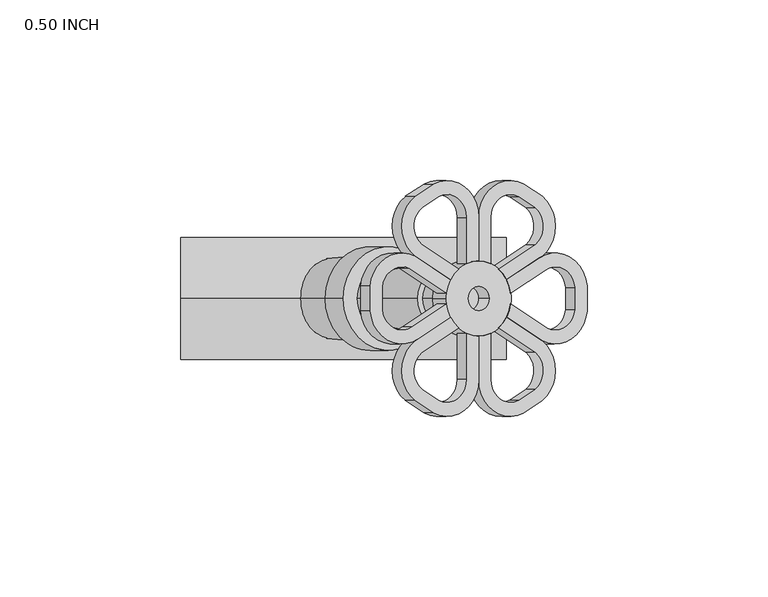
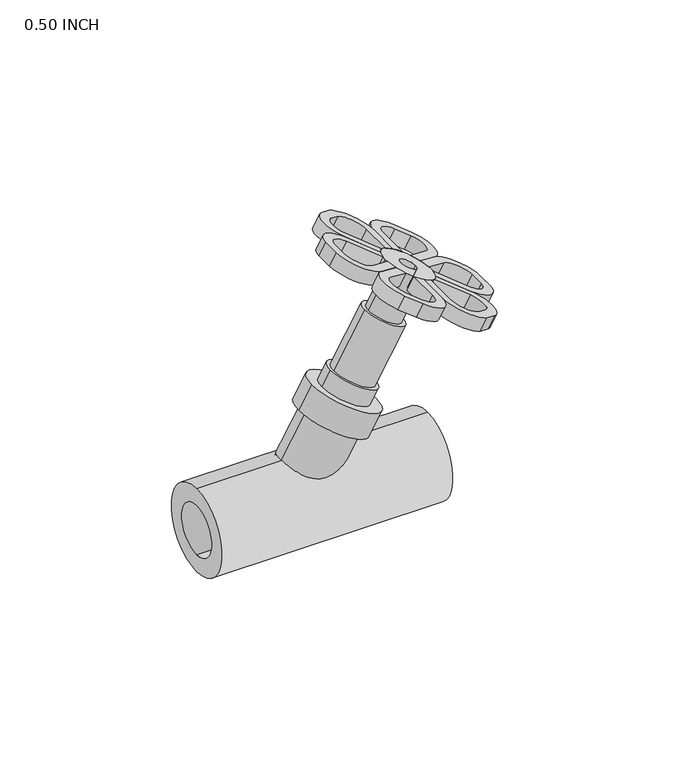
"""IFC4 building model written with IfcOpenShell, lengths in millimetres: valve geometry, Aquatherm - Inclined Check Valve without drain : 0.50 INCH."""

from ifc_helpers import new_model, si_unit, point, frame, frame_2d, origin, origin_2d, place, context, project, spatial, polyline, circle_curve, trimmed, segment, composite_curve, outline, extrude, source, transform, mapped, element, save
from ifc_brep_helpers import plane_surface, cylinder_surface, revolved_surface, advanced_brep


def valve_0_50_inch_45df056f(model_context):
    return source(origin(), model_context, "Body", "SolidModel", [
        advanced_brep(
        [(111.9367275, 10.5951948, 66.2771909), (125.069744, 2.812243, 58.6948403), (125.0898625, -4.0695455, 58.6832248), (112.7241595, -12.3087434, 65.8225668), (102.9347614, -5.7824779, 71.4744784), (104.0280816, -2.111949, 70.8432497), (114.2140611, -8.902602, 64.9623717), (121.7917492, -3.6900946, 60.5873914), (121.8077835, 2.4387005, 60.578134), (113.5865059, 7.295638, 65.3246909), (104.0154846, 0.9149571, 70.8505226), (102.9071894, 4.5755028, 71.4903971), (114.6037275, 10.5951948, 70.8965704), (105.5741894, 4.5755028, 76.1097766), (106.6824846, 0.9149571, 75.4699021), (116.2535059, 7.295638, 69.9440704), (124.4532944, 2.4362397, 65.2099203), (124.473563, -3.691799, 65.1982182), (116.8810611, -8.902602, 69.5817512), (106.6950816, -2.111949, 75.4626292), (105.6017614, -5.7824779, 76.0938579), (115.3911595, -12.3087434, 70.4419463), (127.7420487, -4.0678412, 63.3111571), (127.7582331, 2.8147039, 63.301813)],
        [
            (0, 1, circle_curve(frame((116.3286929, 1.8112639, 63.7414884), z_axis=(-0.49999999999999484, 0.0, -0.8660254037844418), x_axis=(0.4330127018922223, -0.866025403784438, -0.24999999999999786)), 10.1428098)),
            (1, 2, circle_curve(frame((95.1023937, -0.6194603, 75.996498), z_axis=(-0.49999999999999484, 0.0, -0.8660254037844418), x_axis=(0.4330127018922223, -0.866025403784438, -0.24999999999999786)), 34.798)),
            (2, 3, circle_curve(frame((116.3343972, -3.0622214, 63.7381951), z_axis=(-0.49999999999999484, 0.0, -0.8660254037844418), x_axis=(0.4330127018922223, -0.866025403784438, -0.24999999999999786)), 10.1428098)),
            (3, 4),
            (4, 5, circle_curve(frame((95.1023937, -0.6194603, 75.996498), z_axis=(0.49999999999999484, 0.0, 0.8660254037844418), x_axis=(0.41622412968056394, 0.8769321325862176, -0.2403071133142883)), 10.414)),
            (5, 6),
            (6, 7, circle_curve(frame((116.3343972, -3.0622214, 63.7381951), z_axis=(0.49999999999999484, 0.0, 0.8660254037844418), x_axis=(0.4330127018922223, -0.866025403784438, -0.24999999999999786)), 6.3328098)),
            (7, 8, circle_curve(frame((95.1023937, -0.6194603, 75.996498), z_axis=(0.49999999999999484, 0.0, 0.8660254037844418), x_axis=(0.4330127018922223, -0.866025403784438, -0.24999999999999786)), 30.988)),
            (8, 9, circle_curve(frame((116.3286929, 1.8112639, 63.7414884), z_axis=(0.49999999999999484, 0.0, 0.8660254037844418), x_axis=(0.4330127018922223, -0.866025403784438, -0.24999999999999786)), 6.3328098)),
            (9, 10),
            (10, 11, circle_curve(frame((95.0966894, -0.6314972, 75.9997914), z_axis=(0.49999999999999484, 0.0, 0.8660254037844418), x_axis=(0.4330127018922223, -0.866025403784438, -0.24999999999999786)), 10.414)),
            (11, 0),
            (12, 13),
            (13, 14, circle_curve(frame((97.7636894, -0.6314972, 80.6191709), z_axis=(-0.49999999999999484, 0.0, -0.8660254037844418), x_axis=(0.4330127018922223, -0.866025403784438, -0.24999999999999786)), 10.414)),
            (14, 15),
            (15, 16, circle_curve(frame((118.9956929, 1.8112639, 68.3608679), z_axis=(-0.49999999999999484, 0.0, -0.8660254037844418), x_axis=(0.4330127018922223, -0.866025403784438, -0.24999999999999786)), 6.3328098)),
            (16, 17, circle_curve(frame((97.7693937, -0.6194603, 80.6158775), z_axis=(-0.49999999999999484, 0.0, -0.8660254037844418), x_axis=(0.4330127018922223, -0.866025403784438, -0.24999999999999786)), 30.988)),
            (17, 18, circle_curve(frame((119.0013972, -3.0622214, 68.3575746), z_axis=(-0.49999999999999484, 0.0, -0.8660254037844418), x_axis=(0.4330127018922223, -0.866025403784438, -0.24999999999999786)), 6.3328098)),
            (18, 19),
            (19, 20, circle_curve(frame((97.7693937, -0.6194603, 80.6158775), z_axis=(-0.49999999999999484, 0.0, -0.8660254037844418), x_axis=(0.41622412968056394, 0.8769321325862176, -0.2403071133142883)), 10.414)),
            (20, 21),
            (21, 22, circle_curve(frame((119.0013972, -3.0622214, 68.3575746), z_axis=(0.49999999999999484, 0.0, 0.8660254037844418), x_axis=(0.4330127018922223, -0.866025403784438, -0.24999999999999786)), 10.1428098)),
            (22, 23, circle_curve(frame((97.7693937, -0.6194603, 80.6158775), z_axis=(0.49999999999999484, 0.0, 0.8660254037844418), x_axis=(0.4330127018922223, -0.866025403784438, -0.24999999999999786)), 34.798)),
            (23, 12, circle_curve(frame((118.9956929, 1.8112639, 68.3608679), z_axis=(0.49999999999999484, 0.0, 0.8660254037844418), x_axis=(0.4330127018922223, -0.866025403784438, -0.24999999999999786)), 10.1428098)),
            (11, 13),
            (12, 0),
            (10, 14),
            (9, 15),
            (8, 16),
            (7, 17),
            (6, 18),
            (5, 19),
            (4, 20),
            (3, 21),
            (2, 22),
            (1, 23),
        ],
        [
            plane_surface(frame((120.7206584, -6.9726671, 61.205786), z_axis=(-0.4999999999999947, 0.0, -0.8660254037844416), x_axis=(-0.7500000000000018, -0.5000000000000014, 0.43301270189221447))),
            plane_surface(frame((123.3876584, -6.9726671, 65.8251655), z_axis=(0.4999999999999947, 0.0, 0.8660254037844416), x_axis=(0.7500000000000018, 0.5000000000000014, -0.43301270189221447))),
            plane_surface(frame((102.9071894, 4.5755028, 71.4903971), z_axis=(-0.43301270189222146, 0.8660254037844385, 0.24999999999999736), x_axis=(0.49999999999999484, 0.0, 0.8660254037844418))),
            revolved_surface(polyline([(102.27308368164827, -9.650285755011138, 78.01567090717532), (99.6060836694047, -9.650285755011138, 73.39629138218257)]), (97.7636894, -0.6314972, 80.6191709), (0.49999999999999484, 0.0, 0.8660254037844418)),
            plane_surface(frame((113.5865059, 7.295638, 65.3246909), z_axis=(0.43301270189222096, -0.8660254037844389, -0.24999999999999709), x_axis=(0.49999999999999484, 0.0, 0.8660254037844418))),
            revolved_surface(polyline([(121.73788002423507, -3.6731102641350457, 66.7776655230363), (119.07087998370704, -3.6731102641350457, 62.15828594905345)]), (118.9956929, 1.8112639, 68.3608679), (0.49999999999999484, 0.0, 0.8660254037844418)),
            revolved_surface(polyline([(111.1875913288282, -27.455855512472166, 72.8688775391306), (108.52059130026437, -27.455855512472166, 68.2494979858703)]), (97.7693937, -0.6194603, 80.6158775), (0.49999999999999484, 0.0, 0.8660254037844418)),
            revolved_surface(polyline([(121.74358428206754, -8.546595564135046, 66.77437215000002), (119.07658426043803, -8.546595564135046, 62.15499260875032)]), (119.0013972, -3.0622214, 68.3575746), (0.49999999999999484, 0.0, 0.8660254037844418)),
            plane_surface(frame((104.0280816, -2.111949, 70.8432497), z_axis=(0.4330127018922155, 0.8660254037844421, -0.2499999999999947), x_axis=(0.49999999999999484, 0.0, 0.8660254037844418))),
            revolved_surface(polyline([(102.10395179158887, 8.51291092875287, 78.11331923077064), (99.43695178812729, 8.51291092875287, 73.49393972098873)]), (97.7693937, -0.6194603, 80.6158775), (0.49999999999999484, 0.0, 0.8660254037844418)),
            plane_surface(frame((112.7241595, -12.3087434, 65.8225668), z_axis=(-0.43301270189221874, -0.8660254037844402, 0.24999999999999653), x_axis=(0.49999999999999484, 0.0, 0.8660254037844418))),
            cylinder_surface(frame((119.0013972, -3.0622214, 68.3575746), z_axis=(-0.49999999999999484, 0.0, -0.8660254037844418), x_axis=(0.4330127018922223, -0.866025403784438, -0.24999999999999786)), 10.1428098),
            cylinder_surface(frame((97.7693937, -0.6194603, 80.6158775), z_axis=(-0.49999999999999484, 0.0, -0.8660254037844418), x_axis=(0.4330127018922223, -0.866025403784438, -0.24999999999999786)), 34.798),
            cylinder_surface(frame((118.9956929, 1.8112639, 68.3608679), z_axis=(-0.49999999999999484, 0.0, -0.8660254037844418), x_axis=(0.4330127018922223, -0.866025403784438, -0.24999999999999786)), 10.1428098),
        ],
        [
            (0, [[1, 2, 3, 4, 5, 6, 7, 8, 9, 10, 11, 12]]),
            (1, [[13, 14, 15, 16, 17, 18, 19, 20, 21, 22, 23, 24]]),
            (2, [[-12, 25, -13, 26]]),
            (3, [[-11, 27, -14, -25]]),
            (4, [[-10, 28, -15, -27]]),
            (5, [[-9, 29, -16, -28]]),
            (6, [[-8, 30, -17, -29]]),
            (7, [[-7, 31, -18, -30]]),
            (8, [[-6, 32, -19, -31]]),
            (9, [[-5, 33, -20, -32]]),
            (10, [[-4, 34, -21, -33]]),
            (11, [[-3, 35, -22, -34]]),
            (12, [[-2, 36, -23, -35]]),
            (13, [[-1, -26, -24, -36]]),
        ],
    ),
        advanced_brep(
        [(78.2566514, -11.8581892, 85.7223918), (65.1236349, -4.0752375, 93.3047424), (65.1035164, 2.8065511, 93.3163579), (77.4692194, 11.0457489, 86.177016), (87.2586175, 4.5194835, 80.5251043), (86.1652973, 0.8489546, 81.156333), (75.9793178, 7.6396076, 87.037211), (68.4016297, 2.4271002, 91.4121913), (68.3855953, -3.7016949, 91.4214487), (76.606873, -8.5586324, 86.6748918), (86.1778943, -2.1779516, 81.1490601), (87.2861894, -5.8384972, 80.5091856), (80.9236514, -11.8581892, 90.3417713), (89.9531894, -5.8384972, 85.1285651), (88.8448943, -2.1779516, 85.7684396), (79.273873, -8.5586324, 91.2942713), (71.0740845, -3.6992341, 96.0284215), (71.0538159, 2.4288045, 96.0401236), (78.6463178, 7.6396076, 91.6565905), (88.8322973, 0.8489546, 85.7757125), (89.9256175, 4.5194835, 85.1444838), (80.1362194, 11.0457489, 90.7963955), (67.7853302, 2.8048467, 97.9271846), (67.7691458, -4.0776983, 97.9365287)],
        [
            (0, 1, circle_curve(frame((73.864686, -3.0742583, 88.2580943), z_axis=(-0.49999999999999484, 0.0, -0.8660254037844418), x_axis=(-0.4330127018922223, 0.866025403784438, 0.24999999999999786)), 10.1428098)),
            (1, 2, circle_curve(frame((95.0909852, -0.6435341, 76.0030847), z_axis=(-0.49999999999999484, 0.0, -0.8660254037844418), x_axis=(-0.4330127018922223, 0.866025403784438, 0.24999999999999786)), 34.798)),
            (2, 3, circle_curve(frame((73.8589817, 1.7992269, 88.2613876), z_axis=(-0.49999999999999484, 0.0, -0.8660254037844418), x_axis=(-0.4330127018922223, 0.866025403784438, 0.24999999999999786)), 10.1428098)),
            (3, 4),
            (4, 5, circle_curve(frame((95.0909852, -0.6435341, 76.0030847), z_axis=(0.49999999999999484, 0.0, 0.8660254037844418), x_axis=(-0.41622412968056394, -0.8769321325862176, 0.2403071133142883)), 10.414)),
            (5, 6),
            (6, 7, circle_curve(frame((73.8589817, 1.7992269, 88.2613876), z_axis=(0.49999999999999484, 0.0, 0.8660254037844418), x_axis=(-0.4330127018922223, 0.866025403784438, 0.24999999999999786)), 6.3328098)),
            (7, 8, circle_curve(frame((95.0909852, -0.6435341, 76.0030847), z_axis=(0.49999999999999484, 0.0, 0.8660254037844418), x_axis=(-0.4330127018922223, 0.866025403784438, 0.24999999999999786)), 30.988)),
            (8, 9, circle_curve(frame((73.864686, -3.0742583, 88.2580943), z_axis=(0.49999999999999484, 0.0, 0.8660254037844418), x_axis=(-0.4330127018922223, 0.866025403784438, 0.24999999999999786)), 6.3328098)),
            (9, 10),
            (10, 11, circle_curve(frame((95.0966894, -0.6314972, 75.9997914), z_axis=(0.49999999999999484, 0.0, 0.8660254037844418), x_axis=(-0.4330127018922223, 0.866025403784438, 0.24999999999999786)), 10.414)),
            (11, 0),
            (12, 13),
            (13, 14, circle_curve(frame((97.7636894, -0.6314972, 80.6191709), z_axis=(-0.49999999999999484, 0.0, -0.8660254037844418), x_axis=(-0.4330127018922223, 0.866025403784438, 0.24999999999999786)), 10.414)),
            (14, 15),
            (15, 16, circle_curve(frame((76.531686, -3.0742583, 92.8774738), z_axis=(-0.49999999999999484, 0.0, -0.8660254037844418), x_axis=(-0.4330127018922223, 0.866025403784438, 0.24999999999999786)), 6.3328098)),
            (16, 17, circle_curve(frame((97.7579852, -0.6435341, 80.6224642), z_axis=(-0.49999999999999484, 0.0, -0.8660254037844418), x_axis=(-0.4330127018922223, 0.866025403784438, 0.24999999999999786)), 30.988)),
            (17, 18, circle_curve(frame((76.5259817, 1.7992269, 92.8807671), z_axis=(-0.49999999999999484, 0.0, -0.8660254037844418), x_axis=(-0.4330127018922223, 0.866025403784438, 0.24999999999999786)), 6.3328098)),
            (18, 19),
            (19, 20, circle_curve(frame((97.7579852, -0.6435341, 80.6224642), z_axis=(-0.49999999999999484, 0.0, -0.8660254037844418), x_axis=(-0.41622412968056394, -0.8769321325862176, 0.2403071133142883)), 10.414)),
            (20, 21),
            (21, 22, circle_curve(frame((76.5259817, 1.7992269, 92.8807671), z_axis=(0.49999999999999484, 0.0, 0.8660254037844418), x_axis=(-0.4330127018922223, 0.866025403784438, 0.24999999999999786)), 10.1428098)),
            (22, 23, circle_curve(frame((97.7579852, -0.6435341, 80.6224642), z_axis=(0.49999999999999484, 0.0, 0.8660254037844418), x_axis=(-0.4330127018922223, 0.866025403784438, 0.24999999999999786)), 34.798)),
            (23, 12, circle_curve(frame((76.531686, -3.0742583, 92.8774738), z_axis=(0.49999999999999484, 0.0, 0.8660254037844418), x_axis=(-0.4330127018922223, 0.866025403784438, 0.24999999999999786)), 10.1428098)),
            (0, 12),
            (23, 1),
            (22, 2),
            (21, 3),
            (20, 4),
            (19, 5),
            (18, 6),
            (17, 7),
            (16, 8),
            (15, 9),
            (14, 10),
            (13, 11),
        ],
        [
            plane_surface(frame((69.4727205, 5.7096726, 90.7937967), z_axis=(-0.4999999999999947, 0.0, -0.8660254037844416), x_axis=(0.7500000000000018, 0.5000000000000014, -0.43301270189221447))),
            plane_surface(frame((72.1397205, 5.7096726, 95.4131762), z_axis=(0.4999999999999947, 0.0, 0.8660254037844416), x_axis=(-0.7500000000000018, -0.5000000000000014, 0.43301270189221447))),
            cylinder_surface(frame((76.531686, -3.0742583, 92.8774738), z_axis=(-0.49999999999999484, 0.0, -0.8660254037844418), x_axis=(-0.4330127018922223, 0.866025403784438, 0.24999999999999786)), 10.1428098),
            cylinder_surface(frame((97.7579852, -0.6435341, 80.6224642), z_axis=(-0.49999999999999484, 0.0, -0.8660254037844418), x_axis=(-0.4330127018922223, 0.866025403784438, 0.24999999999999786)), 34.798),
            cylinder_surface(frame((76.5259817, 1.7992269, 92.8807671), z_axis=(-0.49999999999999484, 0.0, -0.8660254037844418), x_axis=(-0.4330127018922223, 0.866025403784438, 0.24999999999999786)), 10.1428098),
            plane_surface(frame((77.4692194, 11.0457489, 86.177016), z_axis=(0.43301270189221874, 0.8660254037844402, -0.24999999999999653), x_axis=(0.49999999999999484, 0.0, 0.8660254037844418))),
            revolved_surface(polyline([(93.4234271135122, -9.77590532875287, 83.12502247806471), (90.75642711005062, -9.77590532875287, 78.50564296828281)]), (97.7579852, -0.6435341, 80.6224642), (0.49999999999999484, 0.0, 0.8660254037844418)),
            plane_surface(frame((86.1652973, 0.8489546, 81.156333), z_axis=(-0.43301270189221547, -0.8660254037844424, 0.24999999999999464), x_axis=(0.49999999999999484, 0.0, 0.8660254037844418))),
            revolved_surface(polyline([(73.78379466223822, 7.283601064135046, 94.46396962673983), (71.11679461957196, 7.283601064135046, 89.84459004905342)]), (76.5259817, 1.7992269, 92.8807671), (0.49999999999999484, 0.0, 0.8660254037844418)),
            revolved_surface(polyline([(84.33978762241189, 26.192861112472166, 88.36946424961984), (81.67278757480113, 26.192861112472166, 83.75008466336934)]), (97.7579852, -0.6435341, 80.6224642), (0.49999999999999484, 0.0, 0.8660254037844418)),
            revolved_surface(polyline([(73.78949892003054, 2.410115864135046, 94.46067625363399), (71.12249887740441, 2.410115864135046, 89.84129667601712)]), (76.531686, -3.0742583, 92.8774738), (0.49999999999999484, 0.0, 0.8660254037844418)),
            plane_surface(frame((76.606873, -8.5586324, 86.6748918), z_axis=(-0.43301270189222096, 0.8660254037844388, 0.24999999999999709), x_axis=(0.49999999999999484, 0.0, 0.8660254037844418))),
            revolved_surface(polyline([(93.2542951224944, 8.387291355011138, 83.22267089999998), (90.58729509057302, 8.387291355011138, 78.60329134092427)]), (97.7636894, -0.6314972, 80.6191709), (0.49999999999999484, 0.0, 0.8660254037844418)),
            plane_surface(frame((87.2861894, -5.8384972, 80.5091856), z_axis=(0.43301270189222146, -0.8660254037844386, -0.24999999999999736), x_axis=(0.49999999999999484, 0.0, 0.8660254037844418))),
        ],
        [
            (0, [[1, 2, 3, 4, 5, 6, 7, 8, 9, 10, 11, 12]]),
            (1, [[13, 14, 15, 16, 17, 18, 19, 20, 21, 22, 23, 24]]),
            (2, [[-1, 25, -24, 26]]),
            (3, [[-2, -26, -23, 27]]),
            (4, [[-3, -27, -22, 28]]),
            (5, [[-4, -28, -21, 29]]),
            (6, [[-5, -29, -20, 30]]),
            (7, [[-6, -30, -19, 31]]),
            (8, [[-7, -31, -18, 32]]),
            (9, [[-8, -32, -17, 33]]),
            (10, [[-9, -33, -16, 34]]),
            (11, [[-10, -34, -15, 35]]),
            (12, [[-11, -35, -14, 36]]),
            (13, [[-12, -36, -13, -25]]),
        ],
    ),
        advanced_brep(
        [(95.0966894, 21.8218868, 75.9997914), (95.0966894, 9.7825028, 75.9997914), (91.7971327, 9.0605251, 77.9047914), (91.7971327, 21.8218868, 77.9047914), (84.0526896, 27.5919762, 82.3760476), (79.4465264, 24.5482255, 85.0354172), (79.334675, 14.350322, 85.0999946), (89.5206545, 7.559669, 79.2191166), (87.3144179, 4.6310844, 80.4928879), (77.5250198, 11.1573498, 86.1447996), (77.5302518, 27.6286901, 86.1417788), (82.6840684, 31.086147, 83.1662214), (97.7636894, 21.8218868, 80.6191709), (85.3599674, 31.0634274, 87.7804631), (80.1885667, 27.6426517, 90.7661727), (80.1920198, 11.1573498, 90.7641791), (89.9814179, 4.6310844, 85.1122674), (92.1876545, 7.559669, 83.8384961), (82.001675, 14.350322, 89.7193741), (82.1222115, 24.5342638, 89.6497824), (86.7107907, 27.6146957, 87.0005649), (94.4641327, 21.8218868, 82.5241709), (94.4641327, 9.0605251, 82.5241709), (97.7636894, 9.7825028, 80.6191709)],
        [
            (0, 1),
            (1, 2, circle_curve(frame((95.0966894, -0.6314972, 75.9997914), z_axis=(0.49999999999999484, 0.0, 0.8660254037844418), x_axis=(-0.8660254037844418, 0.0, 0.49999999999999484)), 10.414)),
            (2, 3),
            (3, 4, circle_curve(frame((86.3127585, 21.8218868, 81.0711962), z_axis=(0.49999999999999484, 0.0, 0.8660254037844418), x_axis=(-0.8660254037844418, 0.0, 0.49999999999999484)), 6.3328098)),
            (4, 5, circle_curve(frame((95.102865, -0.6197745, 75.9962259), z_axis=(0.49999999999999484, 0.0, 0.8660254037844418), x_axis=(-0.8660254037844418, 0.0, 0.49999999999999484)), 30.988)),
            (5, 6, circle_curve(frame((82.6547925, 19.3908484, 83.1831239), z_axis=(0.49999999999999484, 0.0, 0.8660254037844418), x_axis=(-0.8660254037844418, 0.0, 0.49999999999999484)), 6.3328098)),
            (6, 7),
            (7, 8, circle_curve(frame((95.102865, -0.6197745, 75.9962259), z_axis=(0.4999999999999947, 0.0, 0.8660254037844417), x_axis=(0.4495870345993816, 0.8546901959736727, -0.2595691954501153)), 10.414)),
            (8, 9),
            (9, 10, circle_curve(frame((82.6547925, 19.3908484, 83.1831239), z_axis=(-0.49999999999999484, 0.0, -0.8660254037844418), x_axis=(-0.8660254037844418, 0.0, 0.49999999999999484)), 10.1428098)),
            (10, 11, circle_curve(frame((95.102865, -0.6197745, 75.9962259), z_axis=(-0.49999999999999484, 0.0, -0.8660254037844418), x_axis=(-0.8660254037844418, 0.0, 0.49999999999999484)), 34.798)),
            (11, 0, circle_curve(frame((86.3127585, 21.8218868, 81.0711962), z_axis=(-0.49999999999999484, 0.0, -0.8660254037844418), x_axis=(-0.8660254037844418, 0.0, 0.49999999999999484)), 10.1428098)),
            (12, 13, circle_curve(frame((88.9797585, 21.8218868, 85.6905758), z_axis=(0.49999999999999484, 0.0, 0.8660254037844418), x_axis=(-0.8660254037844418, 0.0, 0.49999999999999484)), 10.1428098)),
            (13, 14, circle_curve(frame((97.769865, -0.6197745, 80.6156054), z_axis=(0.49999999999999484, 0.0, 0.8660254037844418), x_axis=(-0.8660254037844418, 0.0, 0.49999999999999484)), 34.798)),
            (14, 15, circle_curve(frame((85.3217925, 19.3908484, 87.8025034), z_axis=(0.49999999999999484, 0.0, 0.8660254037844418), x_axis=(-0.8660254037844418, 0.0, 0.49999999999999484)), 10.1428098)),
            (15, 16),
            (16, 17, circle_curve(frame((97.769865, -0.6197745, 80.6156054), z_axis=(-0.4999999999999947, 0.0, -0.8660254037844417), x_axis=(0.4495870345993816, 0.8546901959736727, -0.2595691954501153)), 10.414)),
            (17, 18),
            (18, 19, circle_curve(frame((85.3217925, 19.3908484, 87.8025034), z_axis=(-0.49999999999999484, 0.0, -0.8660254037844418), x_axis=(-0.8660254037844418, 0.0, 0.49999999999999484)), 6.3328098)),
            (19, 20, circle_curve(frame((97.769865, -0.6197745, 80.6156054), z_axis=(-0.49999999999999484, 0.0, -0.8660254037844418), x_axis=(-0.8660254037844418, 0.0, 0.49999999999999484)), 30.988)),
            (20, 21, circle_curve(frame((88.9797585, 21.8218868, 85.6905758), z_axis=(-0.49999999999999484, 0.0, -0.8660254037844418), x_axis=(-0.8660254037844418, 0.0, 0.49999999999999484)), 6.3328098)),
            (21, 22),
            (22, 23, circle_curve(frame((97.7636894, -0.6314972, 80.6191709), z_axis=(-0.49999999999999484, 0.0, -0.8660254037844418), x_axis=(-0.8660254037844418, 0.0, 0.49999999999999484)), 10.414)),
            (23, 12),
            (11, 13),
            (12, 0),
            (10, 14),
            (9, 15),
            (8, 16),
            (7, 17),
            (6, 18),
            (5, 19),
            (4, 20),
            (3, 21),
            (2, 22),
            (1, 23),
        ],
        [
            plane_surface(frame((95.0966894, 7.6235028, 75.9997914), z_axis=(-0.49999999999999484, 0.0, -0.8660254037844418), x_axis=(0.0, -1.0, 0.0))),
            plane_surface(frame((97.7636894, 7.6235028, 80.6191709), z_axis=(0.49999999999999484, 0.0, 0.8660254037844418), x_axis=(0.0, 1.0, 0.0))),
            cylinder_surface(frame((88.9797585, 21.8218868, 85.6905758), z_axis=(-0.49999999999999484, 0.0, -0.8660254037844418), x_axis=(-0.8660254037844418, 0.0, 0.49999999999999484)), 10.1428098),
            cylinder_surface(frame((97.769865, -0.6197745, 80.6156054), z_axis=(-0.49999999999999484, 0.0, -0.8660254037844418), x_axis=(-0.8660254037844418, 0.0, 0.49999999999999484)), 34.798),
            cylinder_surface(frame((85.3217925, 19.3908484, 87.8025034), z_axis=(-0.49999999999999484, 0.0, -0.8660254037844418), x_axis=(-0.8660254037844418, 0.0, 0.49999999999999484)), 10.1428098),
            plane_surface(frame((87.3144179, 4.6310844, 80.4928879), z_axis=(-0.433012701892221, -0.8660254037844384, 0.24999999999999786), x_axis=(0.49999999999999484, 0.0, 0.8660254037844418))),
            revolved_surface(polyline([(102.45186437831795, 8.280969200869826, 77.91245179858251), (99.78486436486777, 8.280969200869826, 73.29307227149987)]), (97.769865, -0.6197745, 80.6156054), (0.49999999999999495, 0.0, 0.866025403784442)),
            plane_surface(frame((79.334675, 14.350322, 85.0999946), z_axis=(0.4330127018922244, 0.8660254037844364, -0.2499999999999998), x_axis=(0.49999999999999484, 0.0, 0.8660254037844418))),
            revolved_surface(polyline([(79.8374183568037, 19.3908484, 90.96890833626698), (77.17041832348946, 19.3908484, 86.34952877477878)]), (85.3217925, 19.3908484, 87.8025034), (0.49999999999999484, 0.0, 0.8660254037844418)),
            revolved_surface(polyline([(70.93346980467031, -0.6197745, 96.10960542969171), (68.26646977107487, -0.6197745, 91.49022586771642)]), (97.769865, -0.6197745, 80.6156054), (0.49999999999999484, 0.0, 0.8660254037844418)),
            revolved_surface(polyline([(83.49538434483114, 21.8218868, 88.8569807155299), (80.82838429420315, 21.8218868, 84.2376011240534)]), (88.9797585, 21.8218868, 85.6905758), (0.49999999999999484, 0.0, 0.8660254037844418)),
            plane_surface(frame((91.7971327, 9.0605251, 77.9047914), z_axis=(-0.8660254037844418, 0.0, 0.49999999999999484), x_axis=(0.49999999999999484, 0.0, 0.8660254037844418))),
            revolved_surface(polyline([(88.7449008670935, -0.6314972, 85.8261709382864), (86.07790084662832, -0.6314972, 81.20679139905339)]), (97.7636894, -0.6314972, 80.6191709), (0.49999999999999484, 0.0, 0.8660254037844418)),
            plane_surface(frame((95.0966894, 21.8218868, 75.9997914), z_axis=(0.8660254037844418, 0.0, -0.49999999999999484), x_axis=(0.49999999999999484, 0.0, 0.8660254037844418))),
        ],
        [
            (0, [[1, 2, 3, 4, 5, 6, 7, 8, 9, 10, 11, 12]]),
            (1, [[13, 14, 15, 16, 17, 18, 19, 20, 21, 22, 23, 24]]),
            (2, [[-12, 25, -13, 26]]),
            (3, [[-11, 27, -14, -25]]),
            (4, [[-10, 28, -15, -27]]),
            (5, [[-9, 29, -16, -28]]),
            (6, [[-8, 30, -17, -29]]),
            (7, [[-7, 31, -18, -30]]),
            (8, [[-6, 32, -19, -31]]),
            (9, [[-5, 33, -20, -32]]),
            (10, [[-4, 34, -21, -33]]),
            (11, [[-3, 35, -22, -34]]),
            (12, [[-2, 36, -23, -35]]),
            (13, [[-1, -26, -24, -36]]),
        ],
    ),
        advanced_brep(
        [(95.0966894, 21.8218868, 75.9997914), (107.5004115, 31.0634274, 68.8384991), (112.6718122, 27.6426517, 65.8527895), (112.6683591, 11.1573498, 65.8547832), (102.8789609, 4.6310844, 71.5066948), (100.6727244, 7.559669, 72.7804661), (110.8587039, 14.350322, 66.8995881), (110.7381674, 24.5342638, 66.9691799), (106.1495882, 27.6146957, 69.6183973), (98.3962462, 21.8218868, 74.0947914), (98.3962462, 9.0605251, 74.0947914), (95.0966894, 9.7825028, 75.9997914), (97.7636894, 21.8218868, 80.6191709), (97.7636894, 9.7825028, 80.6191709), (101.0632462, 9.0605251, 78.7141709), (101.0632462, 21.8218868, 78.7141709), (108.8076892, 27.5919762, 74.2429146), (113.4138525, 24.5482255, 71.583545), (113.5257039, 14.350322, 71.5189676), (103.3397244, 7.559669, 77.3998456), (105.5459609, 4.6310844, 76.1260743), (115.3353591, 11.1573498, 70.4741627), (115.330127, 27.6286901, 70.4771834), (110.1763105, 31.086147, 73.4527408)],
        [
            (0, 1, circle_curve(frame((103.8806204, 21.8218868, 70.9283865), z_axis=(-0.49999999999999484, 0.0, -0.8660254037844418), x_axis=(0.8660254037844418, 0.0, -0.49999999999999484)), 10.1428098)),
            (1, 2, circle_curve(frame((95.0905139, -0.6197745, 76.0033568), z_axis=(-0.49999999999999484, 0.0, -0.8660254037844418), x_axis=(0.8660254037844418, 0.0, -0.49999999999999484)), 34.798)),
            (2, 3, circle_curve(frame((107.5385864, 19.3908484, 68.8164588), z_axis=(-0.49999999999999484, 0.0, -0.8660254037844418), x_axis=(0.8660254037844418, 0.0, -0.49999999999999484)), 10.1428098)),
            (3, 4),
            (4, 5, circle_curve(frame((95.0905139, -0.6197745, 76.0033568), z_axis=(0.4999999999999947, 0.0, 0.8660254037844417), x_axis=(-0.4495870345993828, 0.854690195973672, 0.2595691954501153)), 10.414)),
            (5, 6),
            (6, 7, circle_curve(frame((107.5385864, 19.3908484, 68.8164588), z_axis=(0.49999999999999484, 0.0, 0.8660254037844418), x_axis=(0.8660254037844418, 0.0, -0.49999999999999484)), 6.3328098)),
            (7, 8, circle_curve(frame((95.0905139, -0.6197745, 76.0033568), z_axis=(0.49999999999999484, 0.0, 0.8660254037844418), x_axis=(0.8660254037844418, 0.0, -0.49999999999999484)), 30.988)),
            (8, 9, circle_curve(frame((103.8806204, 21.8218868, 70.9283865), z_axis=(0.49999999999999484, 0.0, 0.8660254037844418), x_axis=(0.8660254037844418, 0.0, -0.49999999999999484)), 6.3328098)),
            (9, 10),
            (10, 11, circle_curve(frame((95.0966894, -0.6314972, 75.9997914), z_axis=(0.49999999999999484, 0.0, 0.8660254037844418), x_axis=(0.8660254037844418, 0.0, -0.49999999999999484)), 10.414)),
            (11, 0),
            (12, 13),
            (13, 14, circle_curve(frame((97.7636894, -0.6314972, 80.6191709), z_axis=(-0.49999999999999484, 0.0, -0.8660254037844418), x_axis=(0.8660254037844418, 0.0, -0.49999999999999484)), 10.414)),
            (14, 15),
            (15, 16, circle_curve(frame((106.5476204, 21.8218868, 75.547766), z_axis=(-0.49999999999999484, 0.0, -0.8660254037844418), x_axis=(0.8660254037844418, 0.0, -0.49999999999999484)), 6.3328098)),
            (16, 17, circle_curve(frame((97.7575139, -0.6197745, 80.6227363), z_axis=(-0.49999999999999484, 0.0, -0.8660254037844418), x_axis=(0.8660254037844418, 0.0, -0.49999999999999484)), 30.988)),
            (17, 18, circle_curve(frame((110.2055864, 19.3908484, 73.4358383), z_axis=(-0.49999999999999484, 0.0, -0.8660254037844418), x_axis=(0.8660254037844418, 0.0, -0.49999999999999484)), 6.3328098)),
            (18, 19),
            (19, 20, circle_curve(frame((97.7575139, -0.6197745, 80.6227363), z_axis=(-0.4999999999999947, 0.0, -0.8660254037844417), x_axis=(-0.4495870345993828, 0.854690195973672, 0.2595691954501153)), 10.414)),
            (20, 21),
            (21, 22, circle_curve(frame((110.2055864, 19.3908484, 73.4358383), z_axis=(0.49999999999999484, 0.0, 0.8660254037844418), x_axis=(0.8660254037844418, 0.0, -0.49999999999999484)), 10.1428098)),
            (22, 23, circle_curve(frame((97.7575139, -0.6197745, 80.6227363), z_axis=(0.49999999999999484, 0.0, 0.8660254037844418), x_axis=(0.8660254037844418, 0.0, -0.49999999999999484)), 34.798)),
            (23, 12, circle_curve(frame((106.5476204, 21.8218868, 75.547766), z_axis=(0.49999999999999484, 0.0, 0.8660254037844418), x_axis=(0.8660254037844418, 0.0, -0.49999999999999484)), 10.1428098)),
            (11, 13),
            (12, 0),
            (10, 14),
            (9, 15),
            (8, 16),
            (7, 17),
            (6, 18),
            (5, 19),
            (4, 20),
            (3, 21),
            (2, 22),
            (1, 23),
        ],
        [
            plane_surface(frame((112.6645513, 21.8218868, 65.8569816), z_axis=(-0.49999999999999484, 0.0, -0.8660254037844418), x_axis=(0.0, -1.0, 0.0))),
            plane_surface(frame((115.3315513, 21.8218868, 70.4763611), z_axis=(0.49999999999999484, 0.0, 0.8660254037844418), x_axis=(0.0, 1.0, 0.0))),
            plane_surface(frame((95.0966894, 9.7825028, 75.9997914), z_axis=(-0.8660254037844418, 0.0, 0.49999999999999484), x_axis=(0.49999999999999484, 0.0, 0.8660254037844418))),
            revolved_surface(polyline([(106.7824779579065, -0.6314972, 75.41217090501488), (104.1154779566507, -0.6314972, 70.79279139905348)]), (97.7636894, -0.6314972, 80.6191709), (0.49999999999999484, 0.0, 0.8660254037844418)),
            plane_surface(frame((98.3962462, 21.8218868, 74.0947914), z_axis=(0.8660254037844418, 0.0, -0.49999999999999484), x_axis=(0.49999999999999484, 0.0, 0.8660254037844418))),
            revolved_surface(polyline([(112.03199456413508, 21.8218868, 72.38136110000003), (109.36499455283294, 21.8218868, 67.7619815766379)]), (106.5476204, 21.8218868, 75.547766), (0.49999999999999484, 0.0, 0.8660254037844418)),
            revolved_surface(polyline([(124.5939091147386, -0.6197745, 65.1287363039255), (121.9269091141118, -0.6197745, 60.50935679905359)]), (97.7575139, -0.6197745, 80.6227363), (0.49999999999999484, 0.0, 0.8660254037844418)),
            revolved_surface(polyline([(115.68996057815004, 19.3908484, 70.26943342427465), (113.02296056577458, 19.3908484, 65.65005389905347)]), (110.2055864, 19.3908484, 73.4358383), (0.49999999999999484, 0.0, 0.8660254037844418)),
            plane_surface(frame((100.6727244, 7.559669, 72.7804661), z_axis=(-0.4330127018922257, 0.8660254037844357, 0.24999999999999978), x_axis=(0.49999999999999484, 0.0, 0.8660254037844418))),
            revolved_surface(polyline([(93.0755145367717, 8.28096920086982, 83.32588992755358), (90.40851451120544, 8.28096920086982, 78.70651037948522)]), (97.7575139, -0.6197745, 80.6227363), (0.49999999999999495, 0.0, 0.866025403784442)),
            plane_surface(frame((112.6683591, 11.1573498, 65.8547832), z_axis=(0.4330127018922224, -0.8660254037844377, -0.24999999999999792), x_axis=(0.49999999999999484, 0.0, 0.8660254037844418))),
            cylinder_surface(frame((110.2055864, 19.3908484, 73.4358383), z_axis=(-0.49999999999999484, 0.0, -0.8660254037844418), x_axis=(0.8660254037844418, 0.0, -0.49999999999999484)), 10.1428098),
            cylinder_surface(frame((97.7575139, -0.6197745, 80.6227363), z_axis=(-0.49999999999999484, 0.0, -0.8660254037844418), x_axis=(0.8660254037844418, 0.0, -0.49999999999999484)), 34.798),
            cylinder_surface(frame((106.5476204, 21.8218868, 75.547766), z_axis=(-0.49999999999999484, 0.0, -0.8660254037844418), x_axis=(0.8660254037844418, 0.0, -0.49999999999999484)), 10.1428098),
        ],
        [
            (0, [[1, 2, 3, 4, 5, 6, 7, 8, 9, 10, 11, 12]]),
            (1, [[13, 14, 15, 16, 17, 18, 19, 20, 21, 22, 23, 24]]),
            (2, [[-12, 25, -13, 26]]),
            (3, [[-11, 27, -14, -25]]),
            (4, [[-10, 28, -15, -27]]),
            (5, [[-9, 29, -16, -28]]),
            (6, [[-8, 30, -17, -29]]),
            (7, [[-7, 31, -18, -30]]),
            (8, [[-6, 32, -19, -31]]),
            (9, [[-5, 33, -20, -32]]),
            (10, [[-4, 34, -21, -33]]),
            (11, [[-3, 35, -22, -34]]),
            (12, [[-2, 36, -23, -35]]),
            (13, [[-1, -26, -24, -36]]),
        ],
    ),
        advanced_brep(
        [(95.0966894, -23.0848812, 75.9997914), (82.6929674, -32.3264219, 83.1610836), (77.5215667, -28.9056461, 86.1467932), (77.5250198, -12.4203442, 86.1447996), (87.3144179, -5.8940788, 80.4928879), (89.5206545, -8.8226635, 79.2191166), (79.334675, -15.6133165, 85.0999946), (79.4552115, -25.7972583, 85.0304028), (84.0437907, -28.8776902, 82.3811854), (91.7971327, -23.0848812, 77.9047914), (91.7971327, -10.3235195, 77.9047914), (95.0966894, -11.0454972, 75.9997914), (97.7636894, -23.0848812, 80.6191709), (97.7636894, -11.0454972, 80.6191709), (94.4641327, -10.3235195, 82.5241709), (94.4641327, -23.0848812, 82.5241709), (86.7196896, -28.8549706, 86.9954271), (82.1135264, -25.8112199, 89.6547967), (82.001675, -15.6133165, 89.7193741), (92.1876545, -8.8226635, 83.8384961), (89.9814179, -5.8940788, 85.1122674), (80.1920198, -12.4203442, 90.7641791), (80.1972518, -28.8916845, 90.7611583), (85.3510684, -32.3491414, 87.7856009)],
        [
            (0, 1, circle_curve(frame((86.3127585, -23.0848812, 81.0711962), z_axis=(-0.49999999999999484, 0.0, -0.8660254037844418), x_axis=(-0.8660254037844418, 0.0, 0.49999999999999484)), 10.1428098)),
            (1, 2, circle_curve(frame((95.102865, -0.6432199, 75.9962259), z_axis=(-0.49999999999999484, 0.0, -0.8660254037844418), x_axis=(-0.8660254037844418, 0.0, 0.49999999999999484)), 34.798)),
            (2, 3, circle_curve(frame((82.6547925, -20.6538429, 83.1831239), z_axis=(-0.49999999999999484, 0.0, -0.8660254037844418), x_axis=(-0.8660254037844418, 0.0, 0.49999999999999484)), 10.1428098)),
            (3, 4),
            (4, 5, circle_curve(frame((95.102865, -0.6432199, 75.9962259), z_axis=(0.4999999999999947, 0.0, 0.8660254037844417), x_axis=(0.4495870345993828, -0.854690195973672, -0.2595691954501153)), 10.414)),
            (5, 6),
            (6, 7, circle_curve(frame((82.6547925, -20.6538429, 83.1831239), z_axis=(0.49999999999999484, 0.0, 0.8660254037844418), x_axis=(-0.8660254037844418, 0.0, 0.49999999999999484)), 6.3328098)),
            (7, 8, circle_curve(frame((95.102865, -0.6432199, 75.9962259), z_axis=(0.49999999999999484, 0.0, 0.8660254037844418), x_axis=(-0.8660254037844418, 0.0, 0.49999999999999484)), 30.988)),
            (8, 9, circle_curve(frame((86.3127585, -23.0848812, 81.0711962), z_axis=(0.49999999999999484, 0.0, 0.8660254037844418), x_axis=(-0.8660254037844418, 0.0, 0.49999999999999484)), 6.3328098)),
            (9, 10),
            (10, 11, circle_curve(frame((95.0966894, -0.6314972, 75.9997914), z_axis=(0.49999999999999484, 0.0, 0.8660254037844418), x_axis=(-0.8660254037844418, 0.0, 0.49999999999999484)), 10.414)),
            (11, 0),
            (12, 13),
            (13, 14, circle_curve(frame((97.7636894, -0.6314972, 80.6191709), z_axis=(-0.49999999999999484, 0.0, -0.8660254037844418), x_axis=(-0.8660254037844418, 0.0, 0.49999999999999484)), 10.414)),
            (14, 15),
            (15, 16, circle_curve(frame((88.9797585, -23.0848812, 85.6905758), z_axis=(-0.49999999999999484, 0.0, -0.8660254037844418), x_axis=(-0.8660254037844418, 0.0, 0.49999999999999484)), 6.3328098)),
            (16, 17, circle_curve(frame((97.769865, -0.6432199, 80.6156054), z_axis=(-0.49999999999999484, 0.0, -0.8660254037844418), x_axis=(-0.8660254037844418, 0.0, 0.49999999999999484)), 30.988)),
            (17, 18, circle_curve(frame((85.3217925, -20.6538429, 87.8025034), z_axis=(-0.49999999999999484, 0.0, -0.8660254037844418), x_axis=(-0.8660254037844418, 0.0, 0.49999999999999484)), 6.3328098)),
            (18, 19),
            (19, 20, circle_curve(frame((97.769865, -0.6432199, 80.6156054), z_axis=(-0.4999999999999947, 0.0, -0.8660254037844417), x_axis=(0.4495870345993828, -0.854690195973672, -0.2595691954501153)), 10.414)),
            (20, 21),
            (21, 22, circle_curve(frame((85.3217925, -20.6538429, 87.8025034), z_axis=(0.49999999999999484, 0.0, 0.8660254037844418), x_axis=(-0.8660254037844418, 0.0, 0.49999999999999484)), 10.1428098)),
            (22, 23, circle_curve(frame((97.769865, -0.6432199, 80.6156054), z_axis=(0.49999999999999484, 0.0, 0.8660254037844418), x_axis=(-0.8660254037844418, 0.0, 0.49999999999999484)), 34.798)),
            (23, 12, circle_curve(frame((88.9797585, -23.0848812, 85.6905758), z_axis=(0.49999999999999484, 0.0, 0.8660254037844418), x_axis=(-0.8660254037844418, 0.0, 0.49999999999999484)), 10.1428098)),
            (0, 12),
            (23, 1),
            (22, 2),
            (21, 3),
            (20, 4),
            (19, 5),
            (18, 6),
            (17, 7),
            (16, 8),
            (15, 9),
            (14, 10),
            (13, 11),
        ],
        [
            plane_surface(frame((77.5288276, -23.0848812, 86.1426011), z_axis=(-0.49999999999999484, 0.0, -0.8660254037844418), x_axis=(0.0, 1.0, 0.0))),
            plane_surface(frame((80.1958276, -23.0848812, 90.7619806), z_axis=(0.49999999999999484, 0.0, 0.8660254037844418), x_axis=(0.0, -1.0, 0.0))),
            cylinder_surface(frame((88.9797585, -23.0848812, 85.6905758), z_axis=(-0.49999999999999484, 0.0, -0.8660254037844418), x_axis=(-0.8660254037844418, 0.0, 0.49999999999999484)), 10.1428098),
            cylinder_surface(frame((97.769865, -0.6432199, 80.6156054), z_axis=(-0.49999999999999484, 0.0, -0.8660254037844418), x_axis=(-0.8660254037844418, 0.0, 0.49999999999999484)), 34.798),
            cylinder_surface(frame((85.3217925, -20.6538429, 87.8025034), z_axis=(-0.49999999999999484, 0.0, -0.8660254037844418), x_axis=(-0.8660254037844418, 0.0, 0.49999999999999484)), 10.1428098),
            plane_surface(frame((77.5250198, -12.4203442, 86.1447996), z_axis=(-0.4330127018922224, 0.8660254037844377, 0.24999999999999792), x_axis=(0.49999999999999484, 0.0, 0.8660254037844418))),
            revolved_surface(polyline([(102.45186437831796, -9.54396360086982, 77.91245179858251), (99.78486436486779, -9.54396360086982, 73.29307227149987)]), (97.769865, -0.6432199, 80.6156054), (0.49999999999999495, 0.0, 0.866025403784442)),
            plane_surface(frame((89.5206545, -8.8226635, 79.2191166), z_axis=(0.4330127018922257, -0.8660254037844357, -0.24999999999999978), x_axis=(0.49999999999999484, 0.0, 0.8660254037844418))),
            revolved_surface(polyline([(79.8374183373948, -20.6538429, 90.96890830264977), (77.17041831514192, -20.6538429, 86.34952876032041)]), (85.3217925, -20.6538429, 87.8025034), (0.49999999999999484, 0.0, 0.8660254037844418)),
            revolved_surface(polyline([(70.93346978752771, -0.6432199, 96.10960539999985), (68.26646976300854, -0.6432199, 91.49022585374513)]), (97.769865, -0.6432199, 80.6156054), (0.49999999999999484, 0.0, 0.8660254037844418)),
            revolved_surface(polyline([(83.49538434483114, -23.0848812, 88.8569807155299), (80.82838429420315, -23.0848812, 84.2376011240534)]), (88.9797585, -23.0848812, 85.6905758), (0.49999999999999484, 0.0, 0.8660254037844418)),
            plane_surface(frame((91.7971327, -23.0848812, 77.9047914), z_axis=(-0.8660254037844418, 0.0, 0.49999999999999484), x_axis=(0.49999999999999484, 0.0, 0.8660254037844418))),
            revolved_surface(polyline([(88.7449008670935, -0.6314972, 85.8261709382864), (86.07790084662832, -0.6314972, 81.20679139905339)]), (97.7636894, -0.6314972, 80.6191709), (0.49999999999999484, 0.0, 0.8660254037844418)),
            plane_surface(frame((95.0966894, -11.0454972, 75.9997914), z_axis=(0.8660254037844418, 0.0, -0.49999999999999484), x_axis=(0.49999999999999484, 0.0, 0.8660254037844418))),
        ],
        [
            (0, [[1, 2, 3, 4, 5, 6, 7, 8, 9, 10, 11, 12]]),
            (1, [[13, 14, 15, 16, 17, 18, 19, 20, 21, 22, 23, 24]]),
            (2, [[-1, 25, -24, 26]]),
            (3, [[-2, -26, -23, 27]]),
            (4, [[-3, -27, -22, 28]]),
            (5, [[-4, -28, -21, 29]]),
            (6, [[-5, -29, -20, 30]]),
            (7, [[-6, -30, -19, 31]]),
            (8, [[-7, -31, -18, 32]]),
            (9, [[-8, -32, -17, 33]]),
            (10, [[-9, -33, -16, 34]]),
            (11, [[-10, -34, -15, 35]]),
            (12, [[-11, -35, -14, 36]]),
            (13, [[-12, -36, -13, -25]]),
        ],
    ),
        advanced_brep(
        [(95.0966894, -23.0848812, 75.9997914), (95.0966894, -11.0454972, 75.9997914), (98.3962462, -10.3235195, 74.0947914), (98.3962462, -23.0848812, 74.0947914), (106.1406892, -28.8549706, 69.6235351), (110.7468525, -25.8112199, 66.9641655), (110.8587039, -15.6133165, 66.8995881), (100.6727244, -8.8226635, 72.7804661), (102.8789609, -5.8940788, 71.5066948), (112.6683591, -12.4203442, 65.8547832), (112.663127, -28.8916845, 65.8578039), (107.5093105, -32.3491414, 68.8333613), (97.7636894, -23.0848812, 80.6191709), (110.1674115, -32.3264219, 73.4578786), (115.3388122, -28.9056461, 70.472169), (115.3353591, -12.4203442, 70.4741627), (105.5459609, -5.8940788, 76.1260743), (103.3397244, -8.8226635, 77.3998456), (113.5257039, -15.6133165, 71.5189676), (113.4051674, -25.7972583, 71.5885594), (108.8165882, -28.8776902, 74.2377768), (101.0632462, -23.0848812, 78.7141709), (101.0632462, -10.3235195, 78.7141709), (97.7636894, -11.0454972, 80.6191709)],
        [
            (0, 1),
            (1, 2, circle_curve(frame((95.0966894, -0.6314972, 75.9997914), z_axis=(0.49999999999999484, 0.0, 0.8660254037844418), x_axis=(0.8660254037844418, 0.0, -0.49999999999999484)), 10.414)),
            (2, 3),
            (3, 4, circle_curve(frame((103.8806204, -23.0848812, 70.9283865), z_axis=(0.49999999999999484, 0.0, 0.8660254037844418), x_axis=(0.8660254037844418, 0.0, -0.49999999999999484)), 6.3328098)),
            (4, 5, circle_curve(frame((95.0905139, -0.6432199, 76.0033568), z_axis=(0.49999999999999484, 0.0, 0.8660254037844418), x_axis=(0.8660254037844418, 0.0, -0.49999999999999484)), 30.988)),
            (5, 6, circle_curve(frame((107.5385864, -20.6538429, 68.8164588), z_axis=(0.49999999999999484, 0.0, 0.8660254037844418), x_axis=(0.8660254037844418, 0.0, -0.49999999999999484)), 6.3328098)),
            (6, 7),
            (7, 8, circle_curve(frame((95.0905139, -0.6432199, 76.0033568), z_axis=(0.4999999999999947, 0.0, 0.8660254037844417), x_axis=(-0.4495870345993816, -0.8546901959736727, 0.2595691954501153)), 10.414)),
            (8, 9),
            (9, 10, circle_curve(frame((107.5385864, -20.6538429, 68.8164588), z_axis=(-0.49999999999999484, 0.0, -0.8660254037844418), x_axis=(0.8660254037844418, 0.0, -0.49999999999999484)), 10.1428098)),
            (10, 11, circle_curve(frame((95.0905139, -0.6432199, 76.0033568), z_axis=(-0.49999999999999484, 0.0, -0.8660254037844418), x_axis=(0.8660254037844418, 0.0, -0.49999999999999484)), 34.798)),
            (11, 0, circle_curve(frame((103.8806204, -23.0848812, 70.9283865), z_axis=(-0.49999999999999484, 0.0, -0.8660254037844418), x_axis=(0.8660254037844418, 0.0, -0.49999999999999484)), 10.1428098)),
            (12, 13, circle_curve(frame((106.5476204, -23.0848812, 75.547766), z_axis=(0.49999999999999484, 0.0, 0.8660254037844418), x_axis=(0.8660254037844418, 0.0, -0.49999999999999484)), 10.1428098)),
            (13, 14, circle_curve(frame((97.7575139, -0.6432199, 80.6227363), z_axis=(0.49999999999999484, 0.0, 0.8660254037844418), x_axis=(0.8660254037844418, 0.0, -0.49999999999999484)), 34.798)),
            (14, 15, circle_curve(frame((110.2055864, -20.6538429, 73.4358383), z_axis=(0.49999999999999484, 0.0, 0.8660254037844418), x_axis=(0.8660254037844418, 0.0, -0.49999999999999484)), 10.1428098)),
            (15, 16),
            (16, 17, circle_curve(frame((97.7575139, -0.6432199, 80.6227363), z_axis=(-0.4999999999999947, 0.0, -0.8660254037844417), x_axis=(-0.4495870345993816, -0.8546901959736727, 0.2595691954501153)), 10.414)),
            (17, 18),
            (18, 19, circle_curve(frame((110.2055864, -20.6538429, 73.4358383), z_axis=(-0.49999999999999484, 0.0, -0.8660254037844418), x_axis=(0.8660254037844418, 0.0, -0.49999999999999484)), 6.3328098)),
            (19, 20, circle_curve(frame((97.7575139, -0.6432199, 80.6227363), z_axis=(-0.49999999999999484, 0.0, -0.8660254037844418), x_axis=(0.8660254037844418, 0.0, -0.49999999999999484)), 30.988)),
            (20, 21, circle_curve(frame((106.5476204, -23.0848812, 75.547766), z_axis=(-0.49999999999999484, 0.0, -0.8660254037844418), x_axis=(0.8660254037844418, 0.0, -0.49999999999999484)), 6.3328098)),
            (21, 22),
            (22, 23, circle_curve(frame((97.7636894, -0.6314972, 80.6191709), z_axis=(-0.49999999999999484, 0.0, -0.8660254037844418), x_axis=(0.8660254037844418, 0.0, -0.49999999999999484)), 10.414)),
            (23, 12),
            (0, 12),
            (23, 1),
            (22, 2),
            (21, 3),
            (20, 4),
            (19, 5),
            (18, 6),
            (17, 7),
            (16, 8),
            (15, 9),
            (14, 10),
            (13, 11),
        ],
        [
            plane_surface(frame((95.0966894, -8.8864972, 75.9997914), z_axis=(-0.49999999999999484, 0.0, -0.8660254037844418), x_axis=(0.0, 1.0, 0.0))),
            plane_surface(frame((97.7636894, -8.8864972, 80.6191709), z_axis=(0.49999999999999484, 0.0, 0.8660254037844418), x_axis=(0.0, -1.0, 0.0))),
            plane_surface(frame((95.0966894, -23.0848812, 75.9997914), z_axis=(-0.8660254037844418, 0.0, 0.49999999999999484), x_axis=(0.49999999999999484, 0.0, 0.8660254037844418))),
            revolved_surface(polyline([(106.7824779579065, -0.6314972, 75.41217090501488), (104.1154779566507, -0.6314972, 70.79279139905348)]), (97.7636894, -0.6314972, 80.6191709), (0.49999999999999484, 0.0, 0.8660254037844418)),
            plane_surface(frame((98.3962462, -10.3235195, 74.0947914), z_axis=(0.8660254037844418, 0.0, -0.49999999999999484), x_axis=(0.49999999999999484, 0.0, 0.8660254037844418))),
            revolved_surface(polyline([(112.03199456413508, -23.0848812, 72.38136110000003), (109.36499453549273, -23.0848812, 67.76198154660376)]), (106.5476204, -23.0848812, 75.547766), (0.49999999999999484, 0.0, 0.8660254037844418)),
            revolved_surface(polyline([(124.59390913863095, -0.6432199, 65.1287363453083), (121.92690910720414, -0.6432199, 60.50935678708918)]), (97.7575139, -0.6432199, 80.6227363), (0.49999999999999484, 0.0, 0.8660254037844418)),
            revolved_surface(polyline([(115.68996058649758, -20.6538429, 70.26943343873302), (113.02296056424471, -20.6538429, 65.65005389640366)]), (110.2055864, -20.6538429, 73.4358383), (0.49999999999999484, 0.0, 0.8660254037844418)),
            plane_surface(frame((110.8587039, -15.6133165, 66.8995881), z_axis=(-0.4330127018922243, -0.8660254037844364, 0.24999999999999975), x_axis=(0.49999999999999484, 0.0, 0.8660254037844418))),
            revolved_surface(polyline([(93.07551453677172, -9.543963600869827, 83.32588992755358), (90.40851451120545, -9.543963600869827, 78.70651037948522)]), (97.7575139, -0.6432199, 80.6227363), (0.49999999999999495, 0.0, 0.866025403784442)),
            plane_surface(frame((102.8789609, -5.8940788, 71.5066948), z_axis=(0.43301270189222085, 0.8660254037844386, -0.24999999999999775), x_axis=(0.49999999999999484, 0.0, 0.8660254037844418))),
            cylinder_surface(frame((110.2055864, -20.6538429, 73.4358383), z_axis=(-0.49999999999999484, 0.0, -0.8660254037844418), x_axis=(0.8660254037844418, 0.0, -0.49999999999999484)), 10.1428098),
            cylinder_surface(frame((97.7575139, -0.6432199, 80.6227363), z_axis=(-0.49999999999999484, 0.0, -0.8660254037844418), x_axis=(0.8660254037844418, 0.0, -0.49999999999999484)), 34.798),
            cylinder_surface(frame((106.5476204, -23.0848812, 75.547766), z_axis=(-0.49999999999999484, 0.0, -0.8660254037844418), x_axis=(0.8660254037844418, 0.0, -0.49999999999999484)), 10.1428098),
        ],
        [
            (0, [[1, 2, 3, 4, 5, 6, 7, 8, 9, 10, 11, 12]]),
            (1, [[13, 14, 15, 16, 17, 18, 19, 20, 21, 22, 23, 24]]),
            (2, [[-1, 25, -24, 26]]),
            (3, [[-2, -26, -23, 27]]),
            (4, [[-3, -27, -22, 28]]),
            (5, [[-4, -28, -21, 29]]),
            (6, [[-5, -29, -20, 30]]),
            (7, [[-6, -30, -19, 31]]),
            (8, [[-7, -31, -18, 32]]),
            (9, [[-8, -32, -17, 33]]),
            (10, [[-9, -33, -16, 34]]),
            (11, [[-10, -34, -15, 35]]),
            (12, [[-11, -35, -14, 36]]),
            (13, [[-12, -36, -13, -25]]),
        ],
    ),
        extrude(outline(composite_curve([segment(trimmed(circle_curve(frame_2d((0.0, -10.414)), 10.414), [point((0.0, -20.828))], [point((0.0, 0.0))], False, "CARTESIAN"), True, "CONTINUOUS"), segment(trimmed(circle_curve(frame_2d((0.0, -10.414)), 10.414), [point((0.0, 0.0))], [point((0.0, -20.828))], False, "CARTESIAN"), True, "CONTINUOUS")], self_intersect=False), holes=[composite_curve([segment(trimmed(circle_curve(frame_2d((0.0, -10.414)), 3.302), [point((0.0, -13.716))], [point((0.0, -7.112))], True, "CARTESIAN"), True, "CONTINUOUS"), segment(trimmed(circle_curve(frame_2d((0.0, -10.414)), 3.302), [point((0.0, -7.112))], [point((0.0, -13.716))], True, "CARTESIAN"), True, "CONTINUOUS")], self_intersect=False)]), frame((103.099478, -0.6314972, 69.0330277), z_axis=(0.49999999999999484, 0.0, 0.8660254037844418), x_axis=(0.0, -1.0, 0.0)), (0.0, 0.0, 1.0), 7.366),
        extrude(outline(composite_curve([segment(trimmed(circle_curve(origin_2d(), 6.731), [point((0.0, 6.731))], [point((0.0, -6.7309999))], False, "CARTESIAN"), True, "CONTINUOUS"), segment(trimmed(circle_curve(origin_2d(), 6.731), [point((0.0, -6.7309999))], [point((0.0, 6.731))], False, "CARTESIAN"), True, "CONTINUOUS")], self_intersect=False)), frame((88.1751894, -0.6314972, 63.5714608), z_axis=(0.4999999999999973, 0.0, 0.8660254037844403), x_axis=(0.0, -1.0, 0.0)), (0.0, 0.0, 1.0), 14.224),
        extrude(outline(composite_curve([segment(trimmed(circle_curve(origin_2d(), 8.382), [point((0.0, 8.3820001))], [point((0.0, -8.382))], False, "CARTESIAN"), True, "CONTINUOUS"), segment(trimmed(circle_curve(origin_2d(), 8.382), [point((0.0, -8.382))], [point((0.0, 8.3820001))], False, "CARTESIAN"), True, "CONTINUOUS")], self_intersect=False)), frame((76.1101894, -0.6314972, 42.6742678), z_axis=(0.49999999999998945, 0.0, 0.8660254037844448), x_axis=(0.0, -1.0, 0.0)), (0.0, 0.0, 1.0), 24.13),
        extrude(outline(composite_curve([segment(trimmed(circle_curve(origin_2d(), 9.906), [point((0.0, 9.906))], [point((0.0, -9.906))], False, "CARTESIAN"), True, "CONTINUOUS"), segment(trimmed(circle_curve(origin_2d(), 9.906), [point((0.0, -9.906))], [point((0.0, 9.906))], False, "CARTESIAN"), True, "CONTINUOUS")], self_intersect=False)), frame((72.8081894, -0.6314972, 36.955036), z_axis=(0.4999999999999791, 0.0, 0.8660254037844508), x_axis=(0.0, -1.0, 0.0)), (0.0, 0.0, 1.0), 6.604),
        extrude(outline(composite_curve([segment(trimmed(circle_curve(origin_2d(), 14.351), [point((0.0, 14.351))], [point((0.0, -14.3509999))], False, "CARTESIAN"), True, "CONTINUOUS"), segment(trimmed(circle_curve(origin_2d(), 14.351), [point((0.0, -14.3509999))], [point((0.0, 14.351))], False, "CARTESIAN"), True, "CONTINUOUS")], self_intersect=False)), frame((67.7281894, -0.6314972, 28.1562179), z_axis=(0.4999999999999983, 0.0, 0.8660254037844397), x_axis=(0.0, -1.0, 0.0)), (0.0, 0.0, 1.0), 10.16),
        extrude(outline(composite_curve([segment(trimmed(circle_curve(frame_2d((-0.6314972, 0.0)), 17.018), [point((-0.6314972, 17.018))], [point((-0.6314972, -17.018))], False, "CARTESIAN"), True, "CONTINUOUS"), segment(trimmed(circle_curve(frame_2d((-0.6314972, 0.0)), 17.018), [point((-0.6314972, -17.018))], [point((-0.6314972, 17.018))], False, "CARTESIAN"), True, "CONTINUOUS")], self_intersect=False), holes=[composite_curve([segment(trimmed(circle_curve(frame_2d((-0.6314972, 0.0)), 10.033), [point((-0.6314972, 10.033))], [point((-0.6314972, -10.033))], True, "CARTESIAN"), True, "CONTINUOUS"), segment(trimmed(circle_curve(frame_2d((-0.6314972, 0.0)), 10.033), [point((-0.6314972, -10.033))], [point((-0.6314972, 10.033))], True, "CARTESIAN"), True, "CONTINUOUS")], self_intersect=False)]), frame((15.4041894, 0.0, 0.0), z_axis=(1.0, 0.0, 0.0), x_axis=(0.0, 1.0, 0.0)), (0.0, 0.0, 1.0), 89.916),
        extrude(outline(composite_curve([segment(trimmed(circle_curve(origin_2d(), 11.303), [point((0.0, 11.3030001))], [point((0.0, -11.303))], False, "CARTESIAN"), True, "CONTINUOUS"), segment(trimmed(circle_curve(origin_2d(), 11.303), [point((0.0, -11.303))], [point((0.0, 11.3030001))], False, "CARTESIAN"), True, "CONTINUOUS")], self_intersect=False)), frame((51.4721894, -0.6314972, 0.0), z_axis=(0.49999999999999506, 0.0, 0.8660254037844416), x_axis=(0.0, -1.0, 0.0)), (0.0, 0.0, 1.0), 32.512),
    ])


if __name__ == "__main__":
    model = new_model("IFC4")
    model_context = context("Model", 3, world=origin())
    ifc_project = project(units=[si_unit("LENGTHUNIT", "METRE", prefix="MILLI")], contexts=[model_context])
    site = spatial("IfcSite", under=ifc_project)
    building = spatial("IfcBuilding", under=site)
    placement = place(None, origin())
    valve_0_50_inch_shape = valve_0_50_inch_45df056f(model_context)
    element("IfcValve", 1, ObjectType="Aquatherm - Inclined Check Valve without drain : 0.50 INCH", at=placement, inside=building, context=model_context, shape_type="MappedRepresentation", body=[
        mapped(valve_0_50_inch_shape, transform((0.0, 0.0, 0.0), x_axis=(1.0, 0.0, 0.0), y_axis=(0.0, 1.0, 0.0), z_axis=(0.0, 0.0, 1.0))),
    ])
    save(model, "model.ifc")
